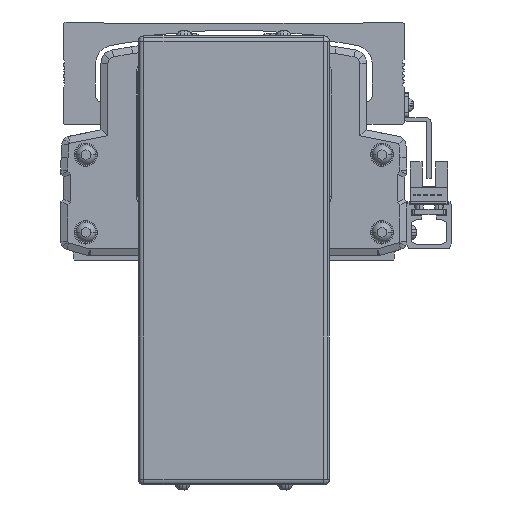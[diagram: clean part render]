
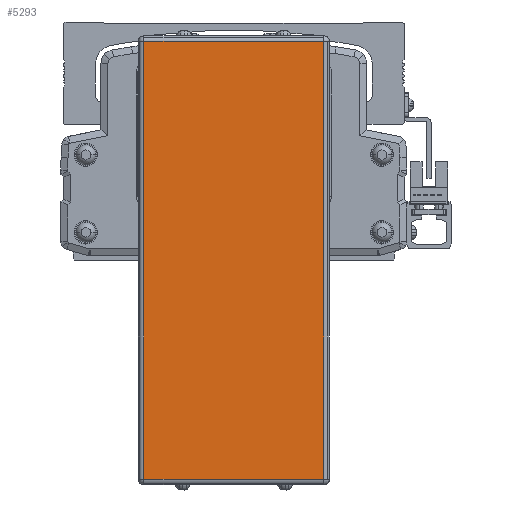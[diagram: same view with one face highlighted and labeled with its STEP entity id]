
A CAD part, front view. The second image highlights one B-rep face of the part: STEP entity #5293.
In plain terms, the highlighted planar face has unit normal (0, -1, 0).
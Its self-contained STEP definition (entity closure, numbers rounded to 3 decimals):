
#5293=ADVANCED_FACE('',(#11909),#11910,.T.);
#11909=FACE_OUTER_BOUND('',#20736,.T.);
#11910=PLANE('',#20737);
#20736=EDGE_LOOP('',(#36829,#36830,#36831,#36832));
#20737=AXIS2_PLACEMENT_3D('',#36833,#36834,#36835);
#36829=ORIENTED_EDGE('',*,*,#54651,.F.);
#36830=ORIENTED_EDGE('',*,*,#55156,.F.);
#36831=ORIENTED_EDGE('',*,*,#54662,.F.);
#36832=ORIENTED_EDGE('',*,*,#55157,.F.);
#36833=CARTESIAN_POINT('',(-299.996,-88.778,-49.1));
#36834=DIRECTION('',(0.,-1.0,0.));
#36835=DIRECTION('',(1.0,0.,0.));
#54651=EDGE_CURVE('',#67314,#67316,#67317,.T.);
#54662=EDGE_CURVE('',#60551,#67331,#67332,.T.);
#55156=EDGE_CURVE('',#67331,#67314,#68001,.T.);
#55157=EDGE_CURVE('',#67316,#60551,#68002,.T.);
#60551=VERTEX_POINT('',#74969);
#67314=VERTEX_POINT('',#84858);
#67316=VERTEX_POINT('',#84860);
#67317=LINE('',#84861,#84862);
#67331=VERTEX_POINT('',#84883);
#67332=LINE('',#84884,#84885);
#68001=LINE('',#85810,#85811);
#68002=LINE('',#85812,#85813);
#74969=CARTESIAN_POINT('',(-332.496,-88.778,-128.2));
#84858=CARTESIAN_POINT('',(-267.496,-88.778,30.));
#84860=CARTESIAN_POINT('',(-267.496,-88.778,-128.2));
#84861=CARTESIAN_POINT('',(-267.496,-88.778,-49.1));
#84862=VECTOR('',#98235,10.0);
#84883=CARTESIAN_POINT('',(-332.496,-88.778,30.));
#84884=CARTESIAN_POINT('',(-332.496,-88.778,-49.1));
#84885=VECTOR('',#98246,10.0);
#85810=CARTESIAN_POINT('',(-299.996,-88.778,30.));
#85811=VECTOR('',#98829,10.0);
#85812=CARTESIAN_POINT('',(-299.996,-88.778,-128.2));
#85813=VECTOR('',#98830,10.0);
#98235=DIRECTION('',(0.0,0.,-1.0));
#98246=DIRECTION('',(0.0,0.,1.0));
#98829=DIRECTION('',(1.0,0.,0.));
#98830=DIRECTION('',(-1.0,0.,0.));
